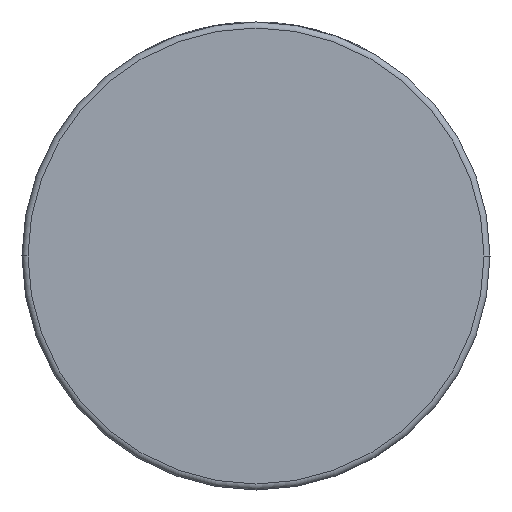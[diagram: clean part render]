
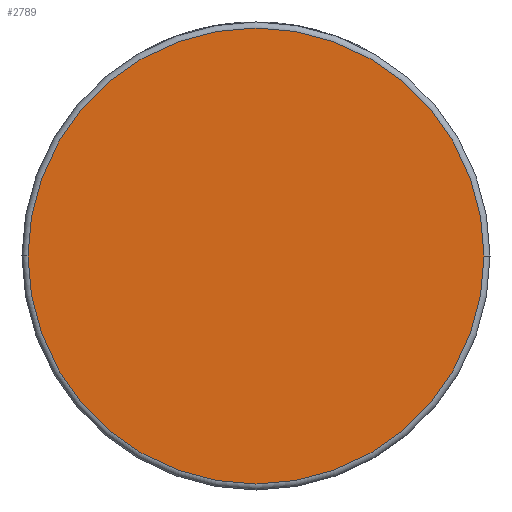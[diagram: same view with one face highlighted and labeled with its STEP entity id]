
A CAD part, front view. The second image highlights one B-rep face of the part: STEP entity #2789.
In plain terms, the highlighted planar face has unit normal (0, -1, 0).
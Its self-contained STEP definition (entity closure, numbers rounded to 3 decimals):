
#284 = AXIS2_PLACEMENT_3D ( 'NONE', #721, #706, #1312 ) ;
#313 = ORIENTED_EDGE ( 'NONE', *, *, #2586, .T. ) ;
#491 = AXIS2_PLACEMENT_3D ( 'NONE', #3343, #1089, #3490 ) ;
#682 = FACE_OUTER_BOUND ( 'NONE', #2857, .T. ) ;
#706 = DIRECTION ( 'NONE',  ( 0., -1., 0. ) ) ;
#721 = CARTESIAN_POINT ( 'NONE',  ( 39., -26.5, 0. ) ) ;
#885 = CARTESIAN_POINT ( 'NONE',  ( 0., -26.5, 0. ) ) ;
#984 = AXIS2_PLACEMENT_3D ( 'NONE', #885, #1296, #2223 ) ;
#1089 = DIRECTION ( 'NONE',  ( 0., -1., 0. ) ) ;
#1296 = DIRECTION ( 'NONE',  ( 0., -1., 0. ) ) ;
#1312 = DIRECTION ( 'NONE',  ( 1., 0., 0. ) ) ;
#1397 = CIRCLE ( 'NONE', #984, 38. ) ;
#1413 = CARTESIAN_POINT ( 'NONE',  ( 38., -26.5, 0. ) ) ;
#2223 = DIRECTION ( 'NONE',  ( 1., 0., 0. ) ) ;
#2388 = PLANE ( 'NONE',  #284 ) ;
#2453 = ORIENTED_EDGE ( 'NONE', *, *, #2465, .T. ) ;
#2465 = EDGE_CURVE ( 'NONE', #3862, #2694, #1397, .T. ) ;
#2586 = EDGE_CURVE ( 'NONE', #2694, #3862, #2669, .T. ) ;
#2669 = CIRCLE ( 'NONE', #491, 38. ) ;
#2694 = VERTEX_POINT ( 'NONE', #2881 ) ;
#2789 = ADVANCED_FACE ( 'NONE', ( #682 ), #2388, .T. ) ;
#2857 = EDGE_LOOP ( 'NONE', ( #2453, #313 ) ) ;
#2881 = CARTESIAN_POINT ( 'NONE',  ( -38., -26.5, 0. ) ) ;
#3343 = CARTESIAN_POINT ( 'NONE',  ( 0., -26.5, 0. ) ) ;
#3490 = DIRECTION ( 'NONE',  ( 1., 0., 0. ) ) ;
#3862 = VERTEX_POINT ( 'NONE', #1413 ) ;
